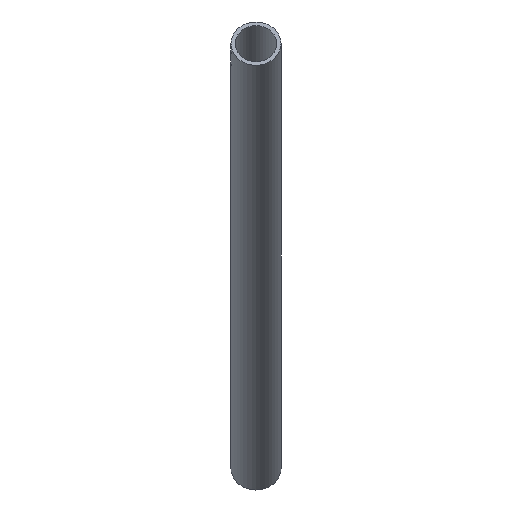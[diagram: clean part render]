
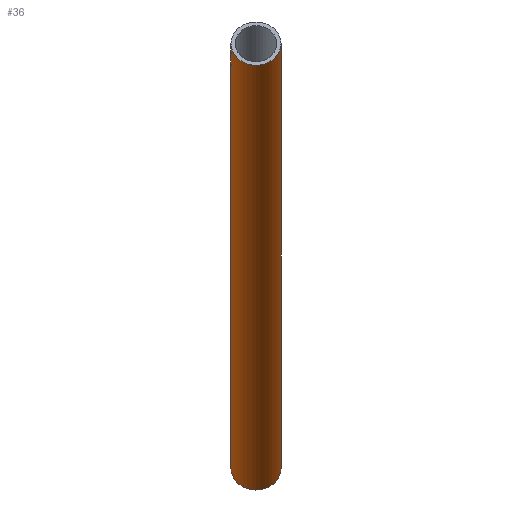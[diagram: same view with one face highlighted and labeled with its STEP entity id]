
A CAD part, front view. The second image highlights one B-rep face of the part: STEP entity #36.
In plain terms, the highlighted cylindrical face has radius 21.082 mm (diameter 42.164 mm), a partial arc.
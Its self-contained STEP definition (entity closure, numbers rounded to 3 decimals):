
#36=ADVANCED_FACE('',(#46),#124,.T.);
#46=FACE_OUTER_BOUND('',#56,.F.);
#56=EDGE_LOOP('',(#75,#76,#77,#78,#79,#80,#81,#82));
#75=ORIENTED_EDGE('',*,*,#194,.T.);
#76=ORIENTED_EDGE('',*,*,#180,.F.);
#77=ORIENTED_EDGE('',*,*,#184,.T.);
#78=ORIENTED_EDGE('',*,*,#186,.F.);
#79=ORIENTED_EDGE('',*,*,#190,.T.);
#80=ORIENTED_EDGE('',*,*,#199,.F.);
#81=ORIENTED_EDGE('',*,*,#195,.T.);
#82=ORIENTED_EDGE('',*,*,#198,.T.);
#124=CYLINDRICAL_SURFACE('',#259,21.082);
#166=CIRCLE('',#252,21.082);
#167=CIRCLE('',#253,21.082);
#174=B_SPLINE_CURVE_WITH_KNOTS('',3,(#368,#369,#370,#371,#372,#373,#374,
#375,#376,#377,#378,#379,#380,#381),.UNSPECIFIED.,.F.,.F.,(4,1,1,1,1,1,1,
1,1,1,1,4),(0.,0.106,0.181,0.272,0.363,
0.454,0.546,0.637,0.728,
0.819,0.894,1.),.UNSPECIFIED.);
#178=B_SPLINE_CURVE_WITH_KNOTS('',3,(#426,#427,#428,#429,#430,#431,#432,
#433,#434,#435,#436,#437,#438,#439),.UNSPECIFIED.,.F.,.F.,(4,1,1,1,1,1,1,
1,1,1,1,4),(0.,0.106,0.181,0.272,0.363,
0.454,0.546,0.637,0.728,
0.819,0.894,1.),.UNSPECIFIED.);
#180=EDGE_CURVE('',#247,#246,#208,.T.);
#184=EDGE_CURVE('',#247,#243,#174,.T.);
#186=EDGE_CURVE('',#241,#243,#210,.T.);
#190=EDGE_CURVE('',#241,#238,#178,.T.);
#194=EDGE_CURVE('',#234,#246,#166,.T.);
#195=EDGE_CURVE('',#233,#232,#167,.T.);
#198=EDGE_CURVE('',#232,#234,#214,.T.);
#199=EDGE_CURVE('',#233,#238,#215,.T.);
#208=LINE('',#338,#220);
#210=LINE('',#396,#222);
#214=LINE('',#460,#226);
#215=LINE('',#461,#227);
#220=VECTOR('',#271,683.);
#222=VECTOR('',#273,14.);
#226=VECTOR('',#285,716.);
#227=VECTOR('',#286,7.);
#232=VERTEX_POINT('',#322);
#233=VERTEX_POINT('',#323);
#234=VERTEX_POINT('',#324);
#238=VERTEX_POINT('',#328);
#241=VERTEX_POINT('',#331);
#243=VERTEX_POINT('',#333);
#246=VERTEX_POINT('',#336);
#247=VERTEX_POINT('',#337);
#252=AXIS2_PLACEMENT_3D('',#456,#279,#280);
#253=AXIS2_PLACEMENT_3D('',#457,#281,#282);
#259=AXIS2_PLACEMENT_3D('',#471,#301,#302);
#271=DIRECTION('',(0.,0.866,-0.5));
#273=DIRECTION('',(0.,0.866,-0.5));
#279=DIRECTION('',(0.,0.866,-0.5));
#280=DIRECTION('',(1.,0.,0.));
#281=DIRECTION('',(0.,-0.866,0.5));
#282=DIRECTION('',(-1.,0.,0.));
#285=DIRECTION('',(0.,0.866,-0.5));
#286=DIRECTION('',(0.,0.866,-0.5));
#301=DIRECTION('',(0.,0.866,-0.5));
#302=DIRECTION('',(1.,0.,0.));
#322=CARTESIAN_POINT('',(1048.457,565.903,-420.626));
#323=CARTESIAN_POINT('',(1006.293,565.903,-420.626));
#324=CARTESIAN_POINT('',(1048.457,1185.977,-778.626));
#328=CARTESIAN_POINT('',(1006.293,571.965,-424.126));
#331=CARTESIAN_POINT('',(1006.293,577.161,-427.126));
#333=CARTESIAN_POINT('',(1006.293,589.286,-434.126));
#336=CARTESIAN_POINT('',(1006.293,1185.977,-778.626));
#337=CARTESIAN_POINT('',(1006.293,594.482,-437.126));
#338=CARTESIAN_POINT('',(1006.293,594.482,-437.126));
#368=CARTESIAN_POINT('',(1006.293,594.482,-437.126));
#369=CARTESIAN_POINT('',(1006.293,594.316,-437.414));
#370=CARTESIAN_POINT('',(1006.307,593.949,-437.858));
#371=CARTESIAN_POINT('',(1006.356,593.236,-438.343));
#372=CARTESIAN_POINT('',(1006.415,592.465,-438.611));
#373=CARTESIAN_POINT('',(1006.474,591.6,-438.654));
#374=CARTESIAN_POINT('',(1006.509,590.755,-438.451));
#375=CARTESIAN_POINT('',(1006.509,590.002,-438.016));
#376=CARTESIAN_POINT('',(1006.474,589.403,-437.386));
#377=CARTESIAN_POINT('',(1006.415,589.008,-436.615));
#378=CARTESIAN_POINT('',(1006.356,588.855,-435.813));
#379=CARTESIAN_POINT('',(1006.307,588.918,-434.953));
#380=CARTESIAN_POINT('',(1006.293,589.119,-434.414));
#381=CARTESIAN_POINT('',(1006.293,589.286,-434.126));
#396=CARTESIAN_POINT('',(1006.293,577.161,-427.126));
#426=CARTESIAN_POINT('',(1006.293,577.161,-427.126));
#427=CARTESIAN_POINT('',(1006.293,576.995,-427.414));
#428=CARTESIAN_POINT('',(1006.307,576.629,-427.858));
#429=CARTESIAN_POINT('',(1006.356,575.916,-428.343));
#430=CARTESIAN_POINT('',(1006.415,575.145,-428.611));
#431=CARTESIAN_POINT('',(1006.474,574.28,-428.654));
#432=CARTESIAN_POINT('',(1006.509,573.435,-428.451));
#433=CARTESIAN_POINT('',(1006.509,572.681,-428.016));
#434=CARTESIAN_POINT('',(1006.474,572.083,-427.386));
#435=CARTESIAN_POINT('',(1006.415,571.687,-426.615));
#436=CARTESIAN_POINT('',(1006.356,571.534,-425.813));
#437=CARTESIAN_POINT('',(1006.307,571.597,-424.953));
#438=CARTESIAN_POINT('',(1006.293,571.799,-424.414));
#439=CARTESIAN_POINT('',(1006.293,571.965,-424.126));
#456=CARTESIAN_POINT('',(1027.375,1185.977,-778.626));
#457=CARTESIAN_POINT('',(1027.375,565.903,-420.626));
#460=CARTESIAN_POINT('',(1048.457,565.903,-420.626));
#461=CARTESIAN_POINT('',(1006.293,565.903,-420.626));
#471=CARTESIAN_POINT('',(1027.375,565.903,-420.626));
